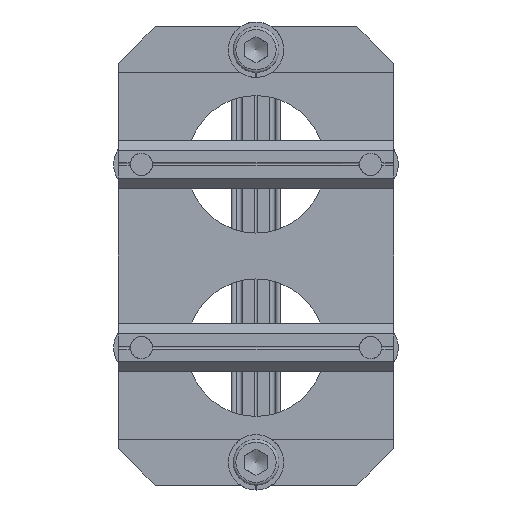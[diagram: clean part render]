
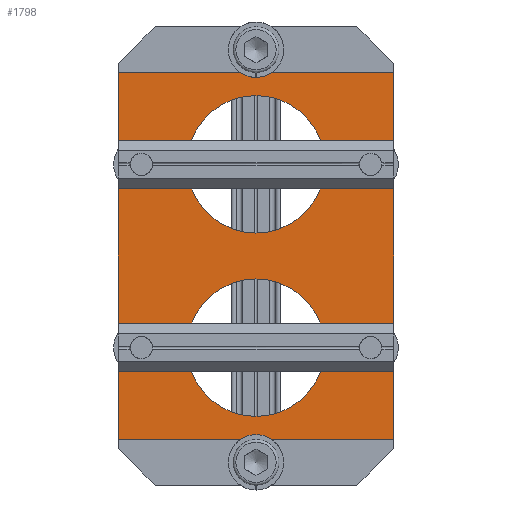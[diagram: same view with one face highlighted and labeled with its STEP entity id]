
A CAD part, front view. The second image highlights one B-rep face of the part: STEP entity #1798.
In plain terms, the highlighted planar face has unit normal (0, -1, 0).
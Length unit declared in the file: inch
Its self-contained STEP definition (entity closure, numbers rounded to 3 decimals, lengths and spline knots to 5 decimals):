
#126=FACE_BOUND('',#297,.T.);
#127=FACE_BOUND('',#298,.T.);
#128=FACE_BOUND('',#299,.T.);
#129=FACE_BOUND('',#300,.T.);
#130=FACE_BOUND('',#301,.T.);
#131=FACE_BOUND('',#302,.T.);
#146=PLANE('',#2024);
#205=FACE_OUTER_BOUND('',#296,.T.);
#296=EDGE_LOOP('',(#1266,#1267,#1268,#1269));
#297=EDGE_LOOP('',(#1270));
#298=EDGE_LOOP('',(#1271));
#299=EDGE_LOOP('',(#1272));
#300=EDGE_LOOP('',(#1273));
#301=EDGE_LOOP('',(#1274));
#302=EDGE_LOOP('',(#1275));
#405=LINE('',#2800,#561);
#409=LINE('',#2809,#565);
#411=LINE('',#2812,#567);
#412=LINE('',#2813,#568);
#561=VECTOR('',#2257,0.3937);
#565=VECTOR('',#2263,0.3937);
#567=VECTOR('',#2267,0.3937);
#568=VECTOR('',#2268,0.3937);
#708=CIRCLE('',#2000,0.13);
#710=CIRCLE('',#2003,0.13);
#712=CIRCLE('',#2006,0.13);
#714=CIRCLE('',#2009,0.13);
#720=CIRCLE('',#2018,0.59055);
#722=CIRCLE('',#2021,0.59055);
#788=VERTEX_POINT('',#2748);
#790=VERTEX_POINT('',#2754);
#792=VERTEX_POINT('',#2760);
#794=VERTEX_POINT('',#2766);
#800=VERTEX_POINT('',#2784);
#802=VERTEX_POINT('',#2790);
#805=VERTEX_POINT('',#2797);
#806=VERTEX_POINT('',#2799);
#809=VERTEX_POINT('',#2806);
#810=VERTEX_POINT('',#2808);
#965=EDGE_CURVE('',#788,#788,#708,.T.);
#968=EDGE_CURVE('',#790,#790,#710,.T.);
#971=EDGE_CURVE('',#792,#792,#712,.T.);
#974=EDGE_CURVE('',#794,#794,#714,.T.);
#983=EDGE_CURVE('',#800,#800,#720,.T.);
#986=EDGE_CURVE('',#802,#802,#722,.T.);
#989=EDGE_CURVE('',#805,#806,#405,.T.);
#993=EDGE_CURVE('',#809,#810,#409,.T.);
#995=EDGE_CURVE('',#806,#809,#411,.T.);
#996=EDGE_CURVE('',#810,#805,#412,.T.);
#1266=ORIENTED_EDGE('',*,*,#993,.F.);
#1267=ORIENTED_EDGE('',*,*,#995,.F.);
#1268=ORIENTED_EDGE('',*,*,#989,.F.);
#1269=ORIENTED_EDGE('',*,*,#996,.F.);
#1270=ORIENTED_EDGE('',*,*,#965,.T.);
#1271=ORIENTED_EDGE('',*,*,#968,.T.);
#1272=ORIENTED_EDGE('',*,*,#971,.T.);
#1273=ORIENTED_EDGE('',*,*,#974,.T.);
#1274=ORIENTED_EDGE('',*,*,#983,.T.);
#1275=ORIENTED_EDGE('',*,*,#986,.T.);
#1798=ADVANCED_FACE('',(#205,#126,#127,#128,#129,#130,#131),#146,.F.);
#2000=AXIS2_PLACEMENT_3D('',#2750,#2202,#2203);
#2003=AXIS2_PLACEMENT_3D('',#2756,#2209,#2210);
#2006=AXIS2_PLACEMENT_3D('',#2762,#2216,#2217);
#2009=AXIS2_PLACEMENT_3D('',#2768,#2223,#2224);
#2018=AXIS2_PLACEMENT_3D('',#2786,#2244,#2245);
#2021=AXIS2_PLACEMENT_3D('',#2792,#2251,#2252);
#2024=AXIS2_PLACEMENT_3D('',#2811,#2265,#2266);
#2202=DIRECTION('center_axis',(0.,1.,0.));
#2203=DIRECTION('ref_axis',(-1.,0.,0.));
#2209=DIRECTION('center_axis',(0.,1.,0.));
#2210=DIRECTION('ref_axis',(-1.,0.,0.));
#2216=DIRECTION('center_axis',(0.,1.,0.));
#2217=DIRECTION('ref_axis',(1.,0.,0.));
#2223=DIRECTION('center_axis',(0.,1.,0.));
#2224=DIRECTION('ref_axis',(1.,0.,0.));
#2244=DIRECTION('center_axis',(0.,1.,0.));
#2245=DIRECTION('ref_axis',(-1.,0.,0.));
#2251=DIRECTION('center_axis',(0.,1.,0.));
#2252=DIRECTION('ref_axis',(-1.,0.,0.));
#2257=DIRECTION('',(-1.,0.,0.));
#2263=DIRECTION('',(1.,0.,0.));
#2265=DIRECTION('center_axis',(0.,1.,0.));
#2266=DIRECTION('ref_axis',(0.,0.,1.));
#2267=DIRECTION('',(0.,0.,1.));
#2268=DIRECTION('',(0.,0.,-1.));
#2748=CARTESIAN_POINT('',(1.11425,-0.07874,0.7874));
#2750=CARTESIAN_POINT('Origin',(0.98425,-0.07874,0.7874));
#2754=CARTESIAN_POINT('',(1.11425,-0.07874,-0.7874));
#2756=CARTESIAN_POINT('Origin',(0.98425,-0.07874,-0.7874));
#2760=CARTESIAN_POINT('',(-1.11425,-0.07874,0.7874));
#2762=CARTESIAN_POINT('Origin',(-0.98425,-0.07874,
0.7874));
#2766=CARTESIAN_POINT('',(-1.11425,-0.07874,-0.7874));
#2768=CARTESIAN_POINT('Origin',(-0.98425,-0.07874,
-0.7874));
#2784=CARTESIAN_POINT('',(0.59055,-0.07874,-0.7874));
#2786=CARTESIAN_POINT('Origin',(0.,-0.07874,-0.7874));
#2790=CARTESIAN_POINT('',(0.59055,-0.07874,0.7874));
#2792=CARTESIAN_POINT('Origin',(0.,-0.07874,0.7874));
#2797=CARTESIAN_POINT('',(1.1811,-0.07874,-1.5748));
#2799=CARTESIAN_POINT('',(-1.1811,-0.07874,-1.5748));
#2800=CARTESIAN_POINT('',(-1.1811,-0.07874,-1.5748));
#2806=CARTESIAN_POINT('',(-1.1811,-0.07874,1.5748));
#2808=CARTESIAN_POINT('',(1.1811,-0.07874,1.5748));
#2809=CARTESIAN_POINT('',(1.1811,-0.07874,1.5748));
#2811=CARTESIAN_POINT('Origin',(0.,-0.07874,
0.));
#2812=CARTESIAN_POINT('',(-1.1811,-0.07874,-0.98425));
#2813=CARTESIAN_POINT('',(1.1811,-0.07874,0.98425));
